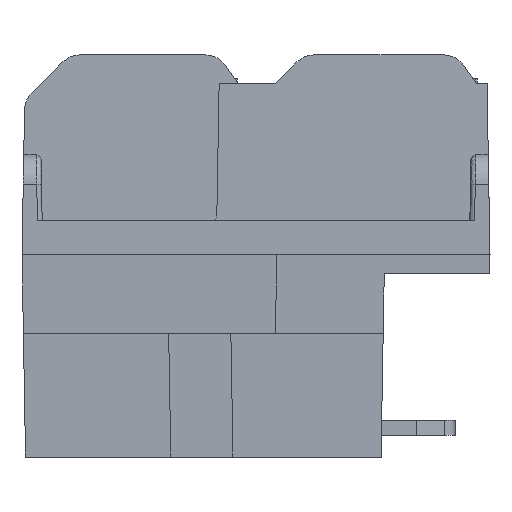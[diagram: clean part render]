
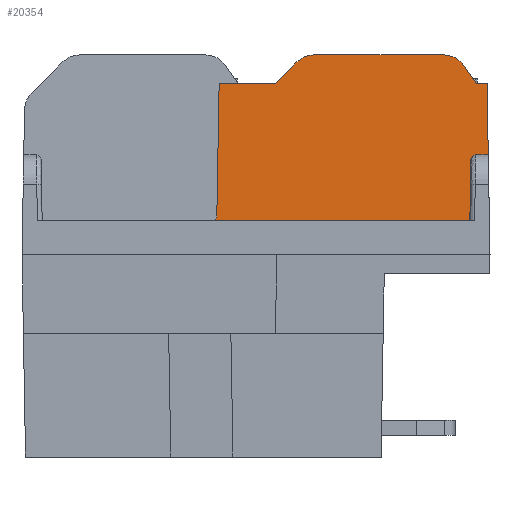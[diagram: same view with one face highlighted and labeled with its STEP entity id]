
A CAD part, left-side view. The second image highlights one B-rep face of the part: STEP entity #20354.
In plain terms, the highlighted planar face has unit normal (-1, 0, 0.018).
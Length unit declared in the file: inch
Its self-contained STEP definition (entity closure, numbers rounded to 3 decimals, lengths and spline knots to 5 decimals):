
#664=ELLIPSE('',#21585,0.01,0.01);
#671=ELLIPSE('',#21598,0.01,0.01);
#672=ELLIPSE('',#21599,0.05001,0.05);
#673=ELLIPSE('',#21600,0.05001,0.05);
#1096=FACE_OUTER_BOUND('',#2191,.T.);
#2191=EDGE_LOOP('',(#14721,#14722,#14723,#14724,#14725,#14726,#14727,#14728,
#14729,#14730,#14731,#14732,#14733,#14734));
#3134=LINE('',#28215,#5718);
#3231=LINE('',#28432,#5815);
#3755=LINE('',#29469,#6339);
#3976=LINE('',#30178,#6560);
#3987=LINE('',#30213,#6571);
#3988=LINE('',#30216,#6572);
#3989=LINE('',#30219,#6573);
#3990=LINE('',#30221,#6574);
#3991=LINE('',#30225,#6575);
#3992=LINE('',#30228,#6576);
#5718=VECTOR('',#22824,0.3937);
#5815=VECTOR('',#22951,0.3937);
#6339=VECTOR('',#23769,0.3937);
#6560=VECTOR('',#24136,0.3937);
#6571=VECTOR('',#24167,0.3937);
#6572=VECTOR('',#24170,0.3937);
#6573=VECTOR('',#24173,0.3937);
#6574=VECTOR('',#24174,0.3937);
#6575=VECTOR('',#24177,0.3937);
#6576=VECTOR('',#24180,0.3937);
#8296=VERTEX_POINT('',#28212);
#8297=VERTEX_POINT('',#28214);
#8389=VERTEX_POINT('',#28430);
#8754=VERTEX_POINT('',#29466);
#8755=VERTEX_POINT('',#29468);
#8927=VERTEX_POINT('',#30171);
#8928=VERTEX_POINT('',#30173);
#8929=VERTEX_POINT('',#30177);
#8944=VERTEX_POINT('',#30215);
#8945=VERTEX_POINT('',#30217);
#8946=VERTEX_POINT('',#30220);
#8947=VERTEX_POINT('',#30222);
#8948=VERTEX_POINT('',#30224);
#8949=VERTEX_POINT('',#30226);
#10258=EDGE_CURVE('',#8296,#8297,#3134,.T.);
#10360=EDGE_CURVE('',#8389,#8296,#3231,.T.);
#10886=EDGE_CURVE('',#8754,#8755,#3755,.T.);
#11143=EDGE_CURVE('',#8927,#8928,#664,.T.);
#11145=EDGE_CURVE('',#8929,#8927,#3976,.T.);
#11164=EDGE_CURVE('',#8754,#8928,#3987,.T.);
#11165=EDGE_CURVE('',#8944,#8929,#3988,.F.);
#11166=EDGE_CURVE('',#8945,#8944,#671,.F.);
#11167=EDGE_CURVE('',#8297,#8945,#3989,.F.);
#11168=EDGE_CURVE('',#8946,#8389,#3990,.T.);
#11169=EDGE_CURVE('',#8947,#8946,#672,.T.);
#11170=EDGE_CURVE('',#8948,#8947,#3991,.T.);
#11171=EDGE_CURVE('',#8949,#8948,#673,.T.);
#11172=EDGE_CURVE('',#8755,#8949,#3992,.T.);
#14721=ORIENTED_EDGE('',*,*,#11164,.T.);
#14722=ORIENTED_EDGE('',*,*,#11143,.F.);
#14723=ORIENTED_EDGE('',*,*,#11145,.F.);
#14724=ORIENTED_EDGE('',*,*,#11165,.F.);
#14725=ORIENTED_EDGE('',*,*,#11166,.F.);
#14726=ORIENTED_EDGE('',*,*,#11167,.F.);
#14727=ORIENTED_EDGE('',*,*,#10258,.F.);
#14728=ORIENTED_EDGE('',*,*,#10360,.F.);
#14729=ORIENTED_EDGE('',*,*,#11168,.F.);
#14730=ORIENTED_EDGE('',*,*,#11169,.F.);
#14731=ORIENTED_EDGE('',*,*,#11170,.F.);
#14732=ORIENTED_EDGE('',*,*,#11171,.F.);
#14733=ORIENTED_EDGE('',*,*,#11172,.F.);
#14734=ORIENTED_EDGE('',*,*,#10886,.F.);
#19469=PLANE('',#21597);
#20354=ADVANCED_FACE('',(#1096),#19469,.F.);
#21585=AXIS2_PLACEMENT_3D('',#30174,#24131,#24132);
#21597=AXIS2_PLACEMENT_3D('',#30214,#24168,#24169);
#21598=AXIS2_PLACEMENT_3D('',#30218,#24171,#24172);
#21599=AXIS2_PLACEMENT_3D('',#30223,#24175,#24176);
#21600=AXIS2_PLACEMENT_3D('',#30227,#24178,#24179);
#22824=DIRECTION('',(-0.017,-0.017,-1.));
#22951=DIRECTION('',(0.,-1.,0.));
#23769=DIRECTION('',(0.,-1.,0.));
#24131=DIRECTION('center_axis',(-1.,0.,0.017));
#24132=DIRECTION('ref_axis',(-0.017,0.,-1.));
#24136=DIRECTION('',(0.,1.,0.));
#24167=DIRECTION('',(-0.017,0.017,-1.));
#24168=DIRECTION('center_axis',(1.,0.,-0.017));
#24169=DIRECTION('ref_axis',(-0.017,0.,-1.));
#24170=DIRECTION('',(0.017,-0.017,1.));
#24171=DIRECTION('center_axis',(1.,0.,-0.017));
#24172=DIRECTION('ref_axis',(0.017,0.,1.));
#24173=DIRECTION('',(0.,-1.,0.));
#24174=DIRECTION('',(-0.014,-0.574,-0.819));
#24175=DIRECTION('center_axis',(1.,0.,-0.017));
#24176=DIRECTION('ref_axis',(0.017,0.,1.));
#24177=DIRECTION('',(0.,-1.,0.));
#24178=DIRECTION('center_axis',(1.,0.,-0.017));
#24179=DIRECTION('ref_axis',(0.017,0.,1.));
#24180=DIRECTION('',(0.012,-0.707,0.707));
#28212=CARTESIAN_POINT('',(0.46647,0.00698,0.4));
#28214=CARTESIAN_POINT('',(0.46386,0.00436,0.25));
#28215=CARTESIAN_POINT('',(0.46172,0.00223,0.12756));
#28430=CARTESIAN_POINT('',(0.46647,0.02896,0.4));
#28432=CARTESIAN_POINT('',(0.46647,0.26288,0.4));
#29466=CARTESIAN_POINT('',(0.46647,0.57,0.4));
#29468=CARTESIAN_POINT('',(0.46647,0.45171,0.4));
#29469=CARTESIAN_POINT('',(0.46647,0.51338,0.4));
#30171=CARTESIAN_POINT('',(0.46145,0.58485,0.112));
#30173=CARTESIAN_POINT('',(0.46162,0.57486,0.12183));
#30174=CARTESIAN_POINT('Origin',(0.46162,0.58485,0.122));
#30177=CARTESIAN_POINT('',(0.46145,0.04305,0.112));
#30178=CARTESIAN_POINT('',(0.46145,0.49465,0.112));
#30213=CARTESIAN_POINT('',(0.46171,0.57476,0.12727));
#30214=CARTESIAN_POINT('Origin',(0.46234,0.49681,0.16345));
#30215=CARTESIAN_POINT('',(0.46368,0.04081,0.24017));
#30216=CARTESIAN_POINT('',(0.46078,0.04371,0.07375));
#30217=CARTESIAN_POINT('',(0.46386,0.03081,0.25));
#30218=CARTESIAN_POINT('Origin',(0.46368,0.03081,0.24));
#30219=CARTESIAN_POINT('',(0.46386,0.25965,0.25));
#30220=CARTESIAN_POINT('',(0.46715,0.05604,0.43868));
#30221=CARTESIAN_POINT('',(0.46734,0.06384,0.44982));
#30222=CARTESIAN_POINT('',(0.46752,0.097,0.46));
#30223=CARTESIAN_POINT('Origin',(0.46665,0.097,0.41));
#30224=CARTESIAN_POINT('',(0.46752,0.371,0.46));
#30225=CARTESIAN_POINT('',(0.46752,0.4339,0.46));
#30226=CARTESIAN_POINT('',(0.46727,0.40636,0.44536));
#30227=CARTESIAN_POINT('Origin',(0.46665,0.371,0.41));
#30228=CARTESIAN_POINT('',(0.46524,0.52215,0.32956));
